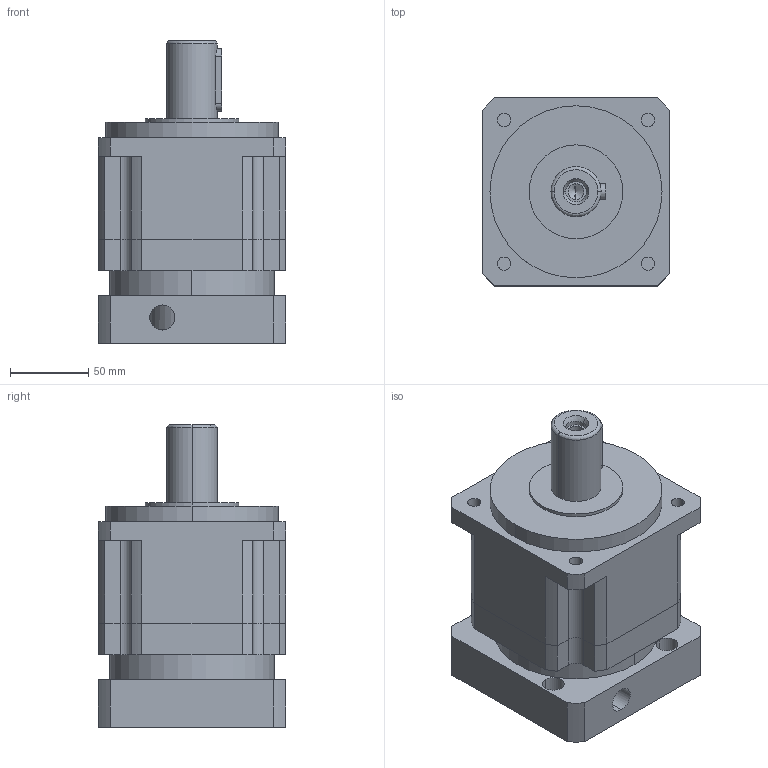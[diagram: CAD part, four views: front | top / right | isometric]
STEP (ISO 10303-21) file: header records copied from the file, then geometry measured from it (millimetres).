
FILE_DESCRIPTION (( 'STEP AP203' ), '1' );
FILE_NAME ('PAG120-L1-22-95-115.STEP', '2024-11-04T02:56:34', ( 'Windows User' ), ( 'P R C' ), 'SwSTEP 2.0', 'SolidWorks 2016', '' );
FILE_SCHEMA (( 'CONFIG_CONTROL_DESIGN' ));
Length unit declared in the file: millimetre
Products named in the file (7): PAG120-本体齿圈; 囀鞠褒蹟佪-M8℅25; PAG120-薊粣ん_LZ03; 邧埴瑩 10x8x40; PAG120-蟀諉-95-M8-115-LR60; 粣創-6009 45x75x16; PAG120-L1-22-95-115
Assembly tree (6 placements, depth 2):
  PAG120-L1-22-95-115
    PAG120-本体齿圈
    PAG120-薊粣ん_LZ03
    PAG120-蟀諉-95-M8-115-LR60
    囀鞠褒蹟佪-M8℅25
    邧埴瑩 10x8x40
    粣創-6009 45x75x16
Bounding box: 120 x 120 x 193.5 mm (x, y, z)
Volume: 1601912.2 mm3; surface area: 204882.9 mm2
Topology: 6 solids, 6 shells, 987 faces, 2707 edges, 1784 vertices
Faces by surface type: plane 544, bspline 275, cylinder 152, cone 16
Entity records: 42746 total; most frequent: CARTESIAN_POINT 18637, ORIENTED_EDGE 5386, DIRECTION 3969, EDGE_CURVE 2693, VERTEX_POINT 1780, LINE 1561, VECTOR 1561, AXIS2_PLACEMENT_3D 1204
